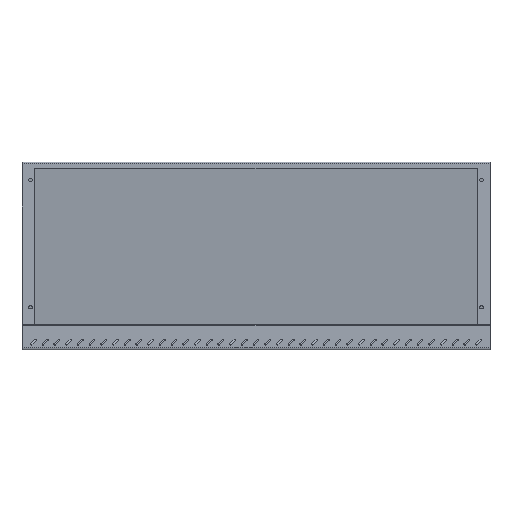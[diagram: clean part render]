
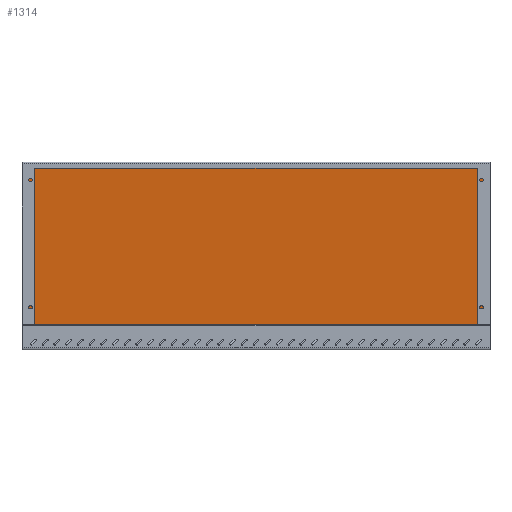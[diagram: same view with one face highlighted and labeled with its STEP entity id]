
A CAD part, front view. The second image highlights one B-rep face of the part: STEP entity #1314.
In plain terms, the highlighted planar face has unit normal (0, -0.993, -0.118).
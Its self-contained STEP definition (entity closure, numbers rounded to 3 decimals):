
#103 = PLANE ( 'NONE',  #6693 ) ;
#106 = EDGE_CURVE ( 'NONE', #968, #1191, #831, .T. ) ;
#149 = VERTEX_POINT ( 'NONE', #2782 ) ;
#267 = VERTEX_POINT ( 'NONE', #4936 ) ;
#324 = CARTESIAN_POINT ( 'NONE',  ( -398.3, 51.557, -311.217 ) ) ;
#515 = EDGE_CURVE ( 'NONE', #267, #968, #1585, .T. ) ;
#537 = CARTESIAN_POINT ( 'NONE',  ( 399.5, 14.823, -2.787 ) ) ;
#590 = CARTESIAN_POINT ( 'NONE',  ( -398.3, 47.66, -278.5 ) ) ;
#639 = DIRECTION ( 'NONE',  ( -1., 0., 0. ) ) ;
#713 = ORIENTED_EDGE ( 'NONE', *, *, #3057, .T. ) ;
#831 = LINE ( 'NONE', #324, #6017 ) ;
#968 = VERTEX_POINT ( 'NONE', #590 ) ;
#1191 = VERTEX_POINT ( 'NONE', #5623 ) ;
#1314 = ADVANCED_FACE ( 'NONE', ( #4179 ), #103, .T. ) ;
#1585 = LINE ( 'NONE', #5239, #6135 ) ;
#1653 = DIRECTION ( 'NONE',  ( -1., 0., 0. ) ) ;
#2015 = ORIENTED_EDGE ( 'NONE', *, *, #515, .F. ) ;
#2171 = DIRECTION ( 'NONE',  ( 0., 0.118, -0.993 ) ) ;
#2545 = ORIENTED_EDGE ( 'NONE', *, *, #106, .F. ) ;
#2620 = DIRECTION ( 'NONE',  ( 0., -0.993, -0.118 ) ) ;
#2782 = CARTESIAN_POINT ( 'NONE',  ( 398.3, 14.823, -2.787 ) ) ;
#3057 = EDGE_CURVE ( 'NONE', #267, #149, #4739, .T. ) ;
#4179 = FACE_OUTER_BOUND ( 'NONE', #4773, .T. ) ;
#4528 = ORIENTED_EDGE ( 'NONE', *, *, #6372, .T. ) ;
#4596 = LINE ( 'NONE', #537, #5724 ) ;
#4739 = LINE ( 'NONE', #6369, #4948 ) ;
#4773 = EDGE_LOOP ( 'NONE', ( #2545, #2015, #713, #4528 ) ) ;
#4936 = CARTESIAN_POINT ( 'NONE',  ( 398.3, 47.66, -278.5 ) ) ;
#4948 = VECTOR ( 'NONE', #5212, 1000. ) ;
#5212 = DIRECTION ( 'NONE',  ( 0., -0.118, 0.993 ) ) ;
#5239 = CARTESIAN_POINT ( 'NONE',  ( 399.5, 47.66, -278.5 ) ) ;
#5317 = CARTESIAN_POINT ( 'NONE',  ( 399.5, 14.823, -2.787 ) ) ;
#5623 = CARTESIAN_POINT ( 'NONE',  ( -398.3, 14.823, -2.787 ) ) ;
#5724 = VECTOR ( 'NONE', #1653, 1000. ) ;
#6014 = DIRECTION ( 'NONE',  ( 0., -0.118, 0.993 ) ) ;
#6017 = VECTOR ( 'NONE', #6014, 1000. ) ;
#6135 = VECTOR ( 'NONE', #639, 1000. ) ;
#6369 = CARTESIAN_POINT ( 'NONE',  ( 398.3, 51.557, -311.217 ) ) ;
#6372 = EDGE_CURVE ( 'NONE', #149, #1191, #4596, .T. ) ;
#6693 = AXIS2_PLACEMENT_3D ( 'NONE', #5317, #2620, #2171 ) ;
